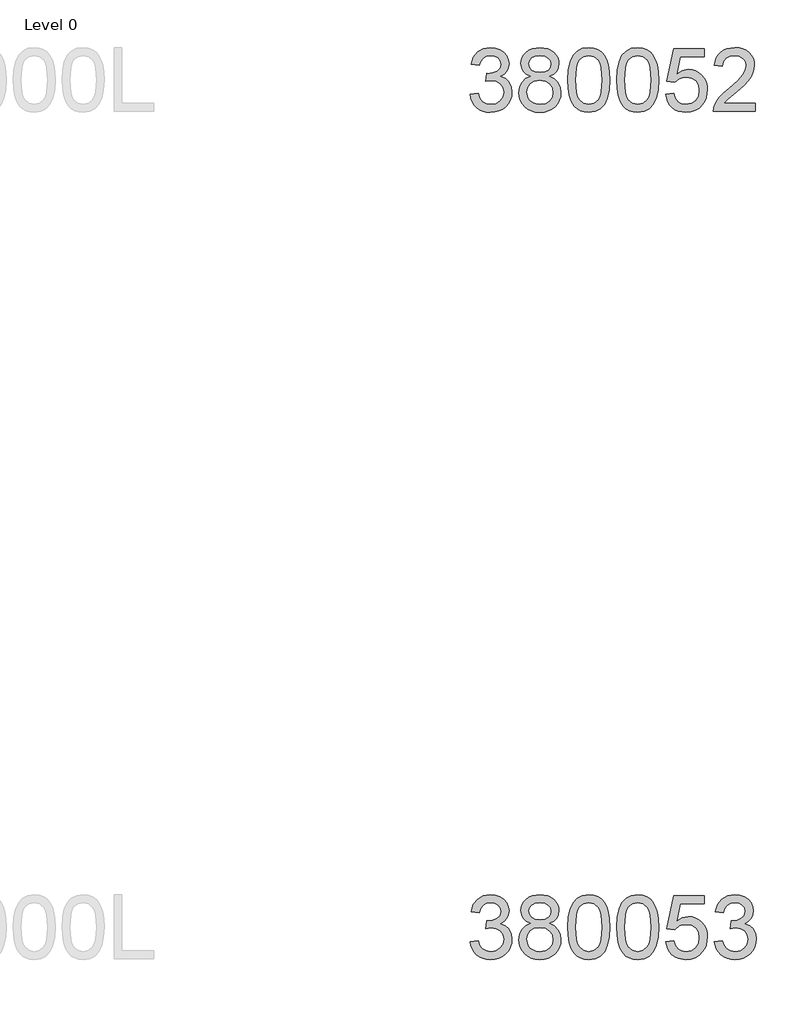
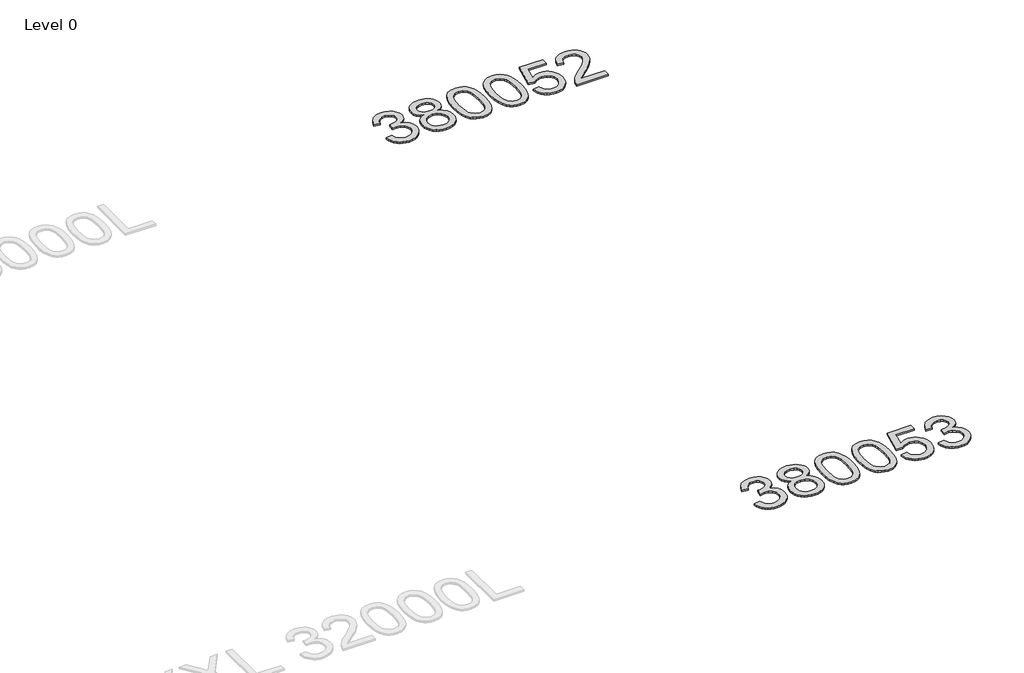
# One storey, part 14 of 37: 2 proxies.
"""IFC4 building model written with IfcOpenShell, lengths in millimetres."""

from ifc_helpers import new_model, si_unit, origin, origin_with_axes, place, context, project, spatial, polyline, outline, extrude, element, save

model = new_model("IFC4")

# Units and contexts
model_context = context("Model", 3, world=origin())
ifc_project = project(units=[si_unit("LENGTHUNIT", "METRE", prefix="MILLI")], contexts=[model_context])

# Site, building, storey
site = spatial("IfcSite", under=ifc_project)
building = spatial("IfcBuilding", under=site)
storey = spatial("IfcBuildingStorey", under=building, Name="Level 0", Elevation=0.0)

# Proxies
placement = place(None, origin())
element("IfcBuildingElementProxy", 1, Name="300mm Arial", ObjectType="300mm Arial", at=placement, inside=storey, context=model_context, shape_type="SweptSolid", body=[
    extrude(outline(polyline([(-6311.2846424, -9620.925676), (-6273.6135261, -9616.2167865), (-6265.1798313, -9639.8899929), (-6252.8281934, -9655.8744656), (-6235.9516068, -9664.979545), (-6213.9430665, -9668.0145714), (-6188.1177504, -9663.8391108), (-6168.1785463, -9651.3127288), (-6155.4314351, -9632.6243235), (-6151.1823981, -9609.9627926), (-6155.3946469, -9588.4508929), (-6168.0313935, -9571.0040893), (-6187.1612572, -9559.4433976), (-6210.8528577, -9555.5898337), (-6237.266785, -9559.710112), (-6233.0729302, -9522.0389957), (-6227.0396655, -9522.4804541), (-6204.4701051, -9519.7765215), (-6184.2917777, -9511.6647235), (-6170.0547444, -9497.942725), (-6165.3090667, -9478.4081911), (-6168.7487634, -9462.1386099), (-6179.0678533, -9448.9408433), (-6194.8132027, -9440.1944488), (-6214.5316777, -9437.278984), (-6234.2869408, -9440.22204), (-6250.4369604, -9449.0512079), (-6262.2275783, -9463.7664877), (-6268.9046365, -9484.3678794), (-6306.5757528, -9479.6589899), (-6295.4841107, -9445.8322404), (-6275.7472417, -9420.5771415), (-6248.7447032, -9404.8501862), (-6215.8560528, -9399.6078677), (-6192.1736494, -9402.1922387), (-6170.4226264, -9409.9453518), (-6152.083709, -9422.1774281), (-6138.637622, -9438.198689), (-6130.3878683, -9456.6571681), (-6127.6379504, -9476.2008991), (-6130.2499126, -9494.4110579), (-6138.0857991, -9510.9289595), (-6151.0352453, -9525.0004458), (-6168.9878867, -9535.8713587), (-6145.4066508, -9545.3995024), (-6127.932256, -9561.6230984), (-6117.1165253, -9583.6592299), (-6113.5112818, -9610.6249802), (-6115.3139036, -9629.7364498), (-6120.7217689, -9647.3396033), (-6129.7348778, -9663.4344406), (-6142.3532302, -9678.0209617), (-6157.7260991, -9690.1242793), (-6175.0027573, -9698.7695062), (-6194.1832048, -9703.9566423), (-6215.2674416, -9705.6856877), (-6234.323729, -9704.2095612), (-6251.6877592, -9699.7811817), (-6267.3595322, -9692.4005492), (-6281.339048, -9682.0676636), (-6293.0606881, -9669.3895304), (-6301.9588338, -9654.9731547), (-6308.0334853, -9638.8185366), (-6311.2846424, -9620.925676)])), origin_with_axes(), (0.0, 0.0, 1.0), 10.0),
    extrude(outline(polyline([(-6025.6610613, -9534.988442), (-6045.8301917, -9525.0556281), (-6059.9844515, -9511.5911471), (-6068.3445698, -9494.8709104), (-6071.1312759, -9475.1708295), (-6069.6137627, -9459.8071577), (-6065.061223, -9445.7218758), (-6057.4736569, -9432.9149839), (-6046.8510643, -9421.3864818), (-6033.7038815, -9411.8583382), (-6018.5425447, -9405.0525213), (-5982.1774095, -9399.6078677), (-5945.5915451, -9405.18128), (-5930.2646615, -9412.1480452), (-5916.9151436, -9421.9015166), (-5906.0994129, -9433.6553464), (-5898.373891, -9446.6231867), (-5893.7385779, -9460.8050376), (-5892.1934735, -9476.2008991), (-5894.9433914, -9495.2663835), (-5903.1931451, -9511.7015117), (-5917.0347052, -9525.0832192), (-5936.5600421, -9534.988442), (-5913.3742794, -9546.9354097), (-5896.4976928, -9564.5293662), (-5886.206194, -9586.9241826), (-5882.7756944, -9613.2737305), (-5884.4771486, -9632.0633034), (-5889.5815113, -9649.2893779), (-5898.0887825, -9664.9519538), (-5909.998962, -9679.0510313), (-5924.6866507, -9690.7036935), (-5941.526449, -9699.0270236), (-5960.518357, -9704.0210217), (-5981.6623747, -9705.6856877), (-6002.8063924, -9704.0141239), (-6021.7983004, -9698.9994325), (-6038.6380987, -9690.6416134), (-6053.3257874, -9678.9406667), (-6065.235967, -9664.7427209), (-6073.7432381, -9648.8939047), (-6078.8476008, -9631.3942181), (-6080.549055, -9612.2436609), (-6076.9805997, -9584.8732405), (-6066.2752336, -9562.3588624), (-6048.9847798, -9545.4730788), (-6025.6610613, -9534.988442)]), holes=[polyline([(-6033.4601596, -9476.2744755), (-6030.1216305, -9492.7188007), (-6020.1060432, -9505.8521879), (-6003.7077033, -9514.4606266), (-5981.2209163, -9517.3301062), (-5959.2583612, -9514.4790207), (-5943.1083416, -9505.9257643), (-5933.1755277, -9493.2338355), (-5929.8645898, -9477.9667327), (-5933.2858923, -9462.1202158), (-5943.5498, -9449.0144197), (-5959.9205488, -9440.2128429), (-5981.6623747, -9437.278984), (-6003.5421564, -9440.1484636), (-6019.885314, -9448.7569023), (-6030.0664482, -9461.3752547), (-6033.4601596, -9476.2744755)]), polyline([(-6042.8779387, -9610.9192858), (-6036.5871566, -9639.2829876), (-6027.8775504, -9651.4506846), (-6014.3302959, -9660.5097787), (-5998.1066999, -9666.1383732), (-5981.3680691, -9668.0145714), (-5955.726694, -9664.069037), (-5936.4864657, -9652.2324338), (-5924.4567245, -9634.3073836), (-5920.4468107, -9612.0965081), (-5924.5854832, -9589.5085536), (-5937.0015005, -9571.1880303), (-5956.6831872, -9559.0479244), (-5982.6188679, -9555.0012225), (-6007.901558, -9558.9927421), (-6026.9486483, -9570.9673011), (-6038.8956161, -9588.9383365), (-6042.8779387, -9610.9192858)])]), origin_with_axes(), (0.0, 0.0, 1.0), 10.0),
    extrude(outline(polyline([(-5849.8134676, -9552.7203541), (-5847.0451556, -9504.4818275), (-5838.7402196, -9466.0105679), (-5824.981433, -9436.717964), (-5805.8515692, -9416.0154047), (-5781.2126726, -9403.709752), (-5750.9267873, -9399.6078677), (-5727.7134334, -9402.0358889), (-5706.9281007, -9409.3199524), (-5689.5456764, -9421.1749497), (-5676.5410479, -9437.3157722), (-5666.7185986, -9457.6044643), (-5658.8827121, -9481.9030701), (-5653.7507583, -9512.7591724), (-5652.040107, -9552.7203541), (-5654.7808279, -9600.6829692), (-5663.0029905, -9639.0622584), (-5676.6790037, -9668.3824534), (-5695.7812763, -9689.1677861), (-5720.4753552, -9701.5562123), (-5750.9267873, -9705.6856877), (-5771.6753319, -9703.892263), (-5790.0694316, -9698.5119888), (-5806.1090866, -9689.5448652), (-5819.7942968, -9676.9908921), (-5832.9276841, -9654.2971715), (-5842.3086749, -9626.0208417), (-5847.9372695, -9592.1619025), (-5849.8134676, -9552.7203541)]), holes=[polyline([(-5812.1423513, -9552.6467777), (-5807.7277674, -9611.9033701), (-5802.2095375, -9632.1713688), (-5794.4840156, -9646.1991691), (-5774.7655406, -9662.5607208), (-5750.9267873, -9668.0145714), (-5727.088034, -9662.5423267), (-5707.3695591, -9646.1255927), (-5699.6440372, -9632.0747997), (-5694.1258073, -9611.8113996), (-5689.7112233, -9552.6467777), (-5693.9786545, -9494.7237576), (-5699.3129434, -9474.5224375), (-5706.7809479, -9460.1612441), (-5726.4626347, -9442.9995491), (-5751.3682457, -9437.278984), (-5774.9494816, -9442.3189674), (-5793.8954044, -9457.4389174), (-5801.8784437, -9473.0739022), (-5807.5806146, -9494.1535405), (-5812.1423513, -9552.6467777)])]), origin_with_axes(), (0.0, 0.0, 1.0), 10.0),
    extrude(outline(polyline([(-5619.0778803, -9552.7203541), (-5616.3095682, -9504.4818275), (-5608.0046322, -9466.0105679), (-5594.2458456, -9436.717964), (-5575.1159818, -9416.0154047), (-5550.4770852, -9403.709752), (-5520.1912, -9399.6078677), (-5496.9778461, -9402.0358889), (-5476.1925133, -9409.3199524), (-5458.8100891, -9421.1749497), (-5445.8054605, -9437.3157722), (-5435.9830113, -9457.6044643), (-5428.1471248, -9481.9030701), (-5423.0151709, -9512.7591724), (-5421.3045197, -9552.7203541), (-5424.0452405, -9600.6829692), (-5432.2674031, -9639.0622584), (-5445.9434163, -9668.3824534), (-5465.0456889, -9689.1677861), (-5489.7397678, -9701.5562123), (-5520.1912, -9705.6856877), (-5540.9397445, -9703.892263), (-5559.3338442, -9698.5119888), (-5575.3734992, -9689.5448652), (-5589.0587095, -9676.9908921), (-5602.1920967, -9654.2971715), (-5611.5730876, -9626.0208417), (-5617.2016821, -9592.1619025), (-5619.0778803, -9552.7203541)]), holes=[polyline([(-5581.406764, -9552.6467777), (-5576.99218, -9611.9033701), (-5571.4739501, -9632.1713688), (-5563.7484282, -9646.1991691), (-5544.0299532, -9662.5607208), (-5520.1912, -9668.0145714), (-5496.3524467, -9662.5423267), (-5476.6339717, -9646.1255927), (-5468.9084498, -9632.0747997), (-5463.3902199, -9611.8113996), (-5458.975636, -9552.6467777), (-5463.2430671, -9494.7237576), (-5468.577356, -9474.5224375), (-5476.0453605, -9460.1612441), (-5495.7270473, -9442.9995491), (-5520.6326584, -9437.278984), (-5544.2138942, -9442.3189674), (-5563.159817, -9457.4389174), (-5571.1428563, -9473.0739022), (-5576.8450272, -9494.1535405), (-5581.406764, -9552.6467777)])]), origin_with_axes(), (0.0, 0.0, 1.0), 10.0),
    extrude(outline(polyline([(-5388.3422929, -9620.925676), (-5350.6711766, -9616.2167865), (-5343.7549951, -9638.8323321), (-5331.6884656, -9655.028337), (-5314.5267706, -9664.7680128), (-5292.3250921, -9668.0145714), (-5265.3225537, -9663.4988199), (-5245.089044, -9649.9515654), (-5232.4522974, -9628.9363065), (-5228.2400486, -9602.0165415), (-5232.185583, -9576.669472), (-5244.0221862, -9557.2820909), (-5263.8418287, -9544.9764381), (-5291.736481, -9540.8745539), (-5310.0110191, -9542.5116288), (-5324.8090723, -9547.4228534), (-5345.962287, -9564.4190016), (-5383.6334033, -9559.710112), (-5350.6711766, -9404.3167573), (-5204.6956009, -9404.3167573), (-5204.6956009, -9441.9878736), (-5320.2105474, -9441.9878736), (-5336.3237788, -9524.9820517), (-5309.4132108, -9508.6480911), (-5281.2150559, -9503.2034376), (-5262.8692406, -9504.8910962), (-5246.017946, -9509.9540722), (-5230.661172, -9518.3923654), (-5216.7989185, -9530.205976), (-5205.3232995, -9544.6729355), (-5197.1264288, -9561.0712754), (-5192.2083064, -9579.4009958), (-5190.5689323, -9599.6620967), (-5196.4734383, -9637.333213), (-5203.8540708, -9654.1270261), (-5214.1869564, -9669.5596758), (-5229.8403353, -9685.364806), (-5248.1056763, -9696.6541847), (-5268.9829796, -9703.427812), (-5292.4722449, -9705.6856877), (-5329.4719766, -9699.8823492), (-5345.1506474, -9692.6281762), (-5358.9485215, -9682.4723338), (-5370.428739, -9669.92066), (-5379.1544401, -9655.4789924), (-5388.3422929, -9620.925676)])), origin_with_axes(), (0.0, 0.0, 1.0), 10.0),
    extrude(outline(polyline([(-4964.5422344, -9663.3056819), (-4964.5422344, -9700.9767982), (-5162.3155951, -9700.9767982), (-5158.2688931, -9675.0043293), (-5148.9798727, -9654.7064402), (-5135.386633, -9635.0155564), (-5115.7233404, -9614.4049677), (-5088.2241612, -9591.3479636), (-5047.5732008, -9555.2403458), (-5023.1826245, -9528.5872952), (-5010.9873363, -9506.9558339), (-5006.9222403, -9485.9129838), (-5010.7574101, -9467.0498345), (-5022.2629195, -9451.3688645), (-5039.9488464, -9440.8014541), (-5062.3252688, -9437.278984), (-5085.8237312, -9440.7186807), (-5104.0798752, -9451.0377707), (-5115.8612961, -9467.4269135), (-5119.9355892, -9489.076769), (-5157.6067055, -9484.3678794), (-5148.474035, -9447.9291678), (-5139.9276764, -9433.3932305), (-5128.7279689, -9421.3129054), (-5115.1324299, -9411.8169514), (-5099.3985768, -9405.0341272), (-5061.5159284, -9399.6078677), (-5041.3261046, -9401.1161839), (-5023.3573684, -9405.6411325), (-5007.6097198, -9413.1827134), (-4994.0831587, -9423.7409266), (-4983.2191435, -9436.534023), (-4975.4591326, -9450.7802533), (-4970.8031261, -9466.4796174), (-4969.251124, -9483.6321154), (-4970.9249871, -9501.6491361), (-4975.9465763, -9519.3534572), (-4984.8585176, -9537.3612808), (-4998.203437, -9556.2888095), (-5019.4762134, -9578.885961), (-5052.1717257, -9607.9026534), (-5095.5082247, -9644.1390299), (-5112.5043729, -9663.3056819), (-4964.5422344, -9663.3056819)])), origin_with_axes(), (0.0, 0.0, 1.0), 10.0),
])
element("IfcBuildingElementProxy", 2, Name="300mm Arial", ObjectType="300mm Arial", at=placement, inside=storey, context=model_context, shape_type="SweptSolid", body=[
    extrude(outline(polyline([(-6311.2846424, -13620.925676), (-6273.6135261, -13616.2167865), (-6265.1798313, -13639.8899929), (-6252.8281934, -13655.8744656), (-6235.9516068, -13664.979545), (-6213.9430665, -13668.0145714), (-6188.1177504, -13663.8391108), (-6168.1785463, -13651.3127288), (-6155.4314351, -13632.6243235), (-6151.1823981, -13609.9627926), (-6155.3946469, -13588.4508929), (-6168.0313935, -13571.0040893), (-6187.1612572, -13559.4433976), (-6210.8528577, -13555.5898337), (-6237.266785, -13559.710112), (-6233.0729302, -13522.0389957), (-6227.0396655, -13522.4804541), (-6204.4701051, -13519.7765215), (-6184.2917777, -13511.6647235), (-6170.0547444, -13497.942725), (-6165.3090667, -13478.4081911), (-6168.7487634, -13462.1386099), (-6179.0678533, -13448.9408433), (-6194.8132027, -13440.1944488), (-6214.5316777, -13437.278984), (-6234.2869408, -13440.22204), (-6250.4369604, -13449.0512079), (-6262.2275783, -13463.7664877), (-6268.9046365, -13484.3678794), (-6306.5757528, -13479.6589899), (-6295.4841107, -13445.8322404), (-6275.7472417, -13420.5771415), (-6248.7447032, -13404.8501862), (-6215.8560528, -13399.6078677), (-6192.1736494, -13402.1922387), (-6170.4226264, -13409.9453518), (-6152.083709, -13422.1774281), (-6138.637622, -13438.198689), (-6130.3878683, -13456.6571681), (-6127.6379504, -13476.2008991), (-6130.2499126, -13494.4110579), (-6138.0857991, -13510.9289595), (-6151.0352453, -13525.0004458), (-6168.9878867, -13535.8713587), (-6145.4066508, -13545.3995024), (-6127.932256, -13561.6230984), (-6117.1165253, -13583.6592299), (-6113.5112818, -13610.6249802), (-6115.3139036, -13629.7364498), (-6120.7217689, -13647.3396033), (-6129.7348778, -13663.4344406), (-6142.3532302, -13678.0209617), (-6157.7260991, -13690.1242793), (-6175.0027573, -13698.7695062), (-6194.1832048, -13703.9566423), (-6215.2674416, -13705.6856877), (-6234.323729, -13704.2095612), (-6251.6877592, -13699.7811817), (-6267.3595322, -13692.4005492), (-6281.339048, -13682.0676636), (-6293.0606881, -13669.3895304), (-6301.9588338, -13654.9731547), (-6308.0334853, -13638.8185366), (-6311.2846424, -13620.925676)])), origin_with_axes(), (0.0, 0.0, 1.0), 10.0),
    extrude(outline(polyline([(-6025.6610613, -13534.988442), (-6045.8301917, -13525.0556281), (-6059.9844515, -13511.5911471), (-6068.3445698, -13494.8709104), (-6071.1312759, -13475.1708295), (-6069.6137627, -13459.8071577), (-6065.061223, -13445.7218758), (-6057.4736569, -13432.9149839), (-6046.8510643, -13421.3864818), (-6033.7038815, -13411.8583382), (-6018.5425447, -13405.0525213), (-5982.1774095, -13399.6078677), (-5945.5915451, -13405.18128), (-5930.2646615, -13412.1480452), (-5916.9151436, -13421.9015166), (-5906.0994129, -13433.6553464), (-5898.373891, -13446.6231867), (-5893.7385779, -13460.8050376), (-5892.1934735, -13476.2008991), (-5894.9433914, -13495.2663835), (-5903.1931451, -13511.7015117), (-5917.0347052, -13525.0832192), (-5936.5600421, -13534.988442), (-5913.3742794, -13546.9354097), (-5896.4976928, -13564.5293662), (-5886.206194, -13586.9241826), (-5882.7756944, -13613.2737305), (-5884.4771486, -13632.0633034), (-5889.5815113, -13649.2893779), (-5898.0887825, -13664.9519538), (-5909.998962, -13679.0510313), (-5924.6866507, -13690.7036935), (-5941.526449, -13699.0270236), (-5960.518357, -13704.0210217), (-5981.6623747, -13705.6856877), (-6002.8063924, -13704.0141239), (-6021.7983004, -13698.9994325), (-6038.6380987, -13690.6416134), (-6053.3257874, -13678.9406667), (-6065.235967, -13664.7427209), (-6073.7432381, -13648.8939047), (-6078.8476008, -13631.3942181), (-6080.549055, -13612.2436609), (-6076.9805997, -13584.8732405), (-6066.2752336, -13562.3588624), (-6048.9847798, -13545.4730788), (-6025.6610613, -13534.988442)]), holes=[polyline([(-6033.4601596, -13476.2744755), (-6030.1216305, -13492.7188007), (-6020.1060432, -13505.8521879), (-6003.7077033, -13514.4606266), (-5981.2209163, -13517.3301062), (-5959.2583612, -13514.4790207), (-5943.1083416, -13505.9257643), (-5933.1755277, -13493.2338355), (-5929.8645898, -13477.9667327), (-5933.2858923, -13462.1202158), (-5943.5498, -13449.0144197), (-5959.9205488, -13440.2128429), (-5981.6623747, -13437.278984), (-6003.5421564, -13440.1484636), (-6019.885314, -13448.7569023), (-6030.0664482, -13461.3752547), (-6033.4601596, -13476.2744755)]), polyline([(-6042.8779387, -13610.9192858), (-6036.5871566, -13639.2829876), (-6027.8775504, -13651.4506846), (-6014.3302959, -13660.5097787), (-5998.1066999, -13666.1383732), (-5981.3680691, -13668.0145714), (-5955.726694, -13664.069037), (-5936.4864657, -13652.2324338), (-5924.4567245, -13634.3073836), (-5920.4468107, -13612.0965081), (-5924.5854832, -13589.5085536), (-5937.0015005, -13571.1880303), (-5956.6831872, -13559.0479244), (-5982.6188679, -13555.0012225), (-6007.901558, -13558.9927421), (-6026.9486483, -13570.9673011), (-6038.8956161, -13588.9383365), (-6042.8779387, -13610.9192858)])]), origin_with_axes(), (0.0, 0.0, 1.0), 10.0),
    extrude(outline(polyline([(-5849.8134676, -13552.7203541), (-5847.0451556, -13504.4818275), (-5838.7402196, -13466.0105679), (-5824.981433, -13436.717964), (-5805.8515692, -13416.0154047), (-5781.2126726, -13403.709752), (-5750.9267873, -13399.6078677), (-5727.7134334, -13402.0358889), (-5706.9281007, -13409.3199524), (-5689.5456764, -13421.1749497), (-5676.5410479, -13437.3157722), (-5666.7185986, -13457.6044643), (-5658.8827121, -13481.9030701), (-5653.7507583, -13512.7591724), (-5652.040107, -13552.7203541), (-5654.7808279, -13600.6829692), (-5663.0029905, -13639.0622584), (-5676.6790037, -13668.3824534), (-5695.7812763, -13689.1677861), (-5720.4753552, -13701.5562123), (-5750.9267873, -13705.6856877), (-5771.6753319, -13703.892263), (-5790.0694316, -13698.5119888), (-5806.1090866, -13689.5448652), (-5819.7942968, -13676.9908921), (-5832.9276841, -13654.2971715), (-5842.3086749, -13626.0208417), (-5847.9372695, -13592.1619025), (-5849.8134676, -13552.7203541)]), holes=[polyline([(-5812.1423513, -13552.6467777), (-5807.7277674, -13611.9033701), (-5802.2095375, -13632.1713688), (-5794.4840156, -13646.1991691), (-5774.7655406, -13662.5607208), (-5750.9267873, -13668.0145714), (-5727.088034, -13662.5423267), (-5707.3695591, -13646.1255927), (-5699.6440372, -13632.0747997), (-5694.1258073, -13611.8113996), (-5689.7112233, -13552.6467777), (-5693.9786545, -13494.7237576), (-5699.3129434, -13474.5224375), (-5706.7809479, -13460.1612441), (-5726.4626347, -13442.9995491), (-5751.3682457, -13437.278984), (-5774.9494816, -13442.3189674), (-5793.8954044, -13457.4389174), (-5801.8784437, -13473.0739022), (-5807.5806146, -13494.1535405), (-5812.1423513, -13552.6467777)])]), origin_with_axes(), (0.0, 0.0, 1.0), 10.0),
    extrude(outline(polyline([(-5619.0778803, -13552.7203541), (-5616.3095682, -13504.4818275), (-5608.0046322, -13466.0105679), (-5594.2458456, -13436.717964), (-5575.1159818, -13416.0154047), (-5550.4770852, -13403.709752), (-5520.1912, -13399.6078677), (-5496.9778461, -13402.0358889), (-5476.1925133, -13409.3199524), (-5458.8100891, -13421.1749497), (-5445.8054605, -13437.3157722), (-5435.9830113, -13457.6044643), (-5428.1471248, -13481.9030701), (-5423.0151709, -13512.7591724), (-5421.3045197, -13552.7203541), (-5424.0452405, -13600.6829692), (-5432.2674031, -13639.0622584), (-5445.9434163, -13668.3824534), (-5465.0456889, -13689.1677861), (-5489.7397678, -13701.5562123), (-5520.1912, -13705.6856877), (-5540.9397445, -13703.892263), (-5559.3338442, -13698.5119888), (-5575.3734992, -13689.5448652), (-5589.0587095, -13676.9908921), (-5602.1920967, -13654.2971715), (-5611.5730876, -13626.0208417), (-5617.2016821, -13592.1619025), (-5619.0778803, -13552.7203541)]), holes=[polyline([(-5581.406764, -13552.6467777), (-5576.99218, -13611.9033701), (-5571.4739501, -13632.1713688), (-5563.7484282, -13646.1991691), (-5544.0299532, -13662.5607208), (-5520.1912, -13668.0145714), (-5496.3524467, -13662.5423267), (-5476.6339717, -13646.1255927), (-5468.9084498, -13632.0747997), (-5463.3902199, -13611.8113996), (-5458.975636, -13552.6467777), (-5463.2430671, -13494.7237576), (-5468.577356, -13474.5224375), (-5476.0453605, -13460.1612441), (-5495.7270473, -13442.9995491), (-5520.6326584, -13437.278984), (-5544.2138942, -13442.3189674), (-5563.159817, -13457.4389174), (-5571.1428563, -13473.0739022), (-5576.8450272, -13494.1535405), (-5581.406764, -13552.6467777)])]), origin_with_axes(), (0.0, 0.0, 1.0), 10.0),
    extrude(outline(polyline([(-5388.3422929, -13620.925676), (-5350.6711766, -13616.2167865), (-5343.7549951, -13638.8323321), (-5331.6884656, -13655.028337), (-5314.5267706, -13664.7680128), (-5292.3250921, -13668.0145714), (-5265.3225537, -13663.4988199), (-5245.089044, -13649.9515654), (-5232.4522974, -13628.9363065), (-5228.2400486, -13602.0165415), (-5232.185583, -13576.669472), (-5244.0221862, -13557.2820909), (-5263.8418287, -13544.9764381), (-5291.736481, -13540.8745539), (-5310.0110191, -13542.5116288), (-5324.8090723, -13547.4228534), (-5345.962287, -13564.4190016), (-5383.6334033, -13559.710112), (-5350.6711766, -13404.3167573), (-5204.6956009, -13404.3167573), (-5204.6956009, -13441.9878736), (-5320.2105474, -13441.9878736), (-5336.3237788, -13524.9820517), (-5309.4132108, -13508.6480911), (-5281.2150559, -13503.2034376), (-5262.8692406, -13504.8910962), (-5246.017946, -13509.9540722), (-5230.661172, -13518.3923654), (-5216.7989185, -13530.205976), (-5205.3232995, -13544.6729355), (-5197.1264288, -13561.0712754), (-5192.2083064, -13579.4009958), (-5190.5689323, -13599.6620967), (-5196.4734383, -13637.333213), (-5203.8540708, -13654.1270261), (-5214.1869564, -13669.5596758), (-5229.8403353, -13685.364806), (-5248.1056763, -13696.6541847), (-5268.9829796, -13703.427812), (-5292.4722449, -13705.6856877), (-5329.4719766, -13699.8823492), (-5345.1506474, -13692.6281762), (-5358.9485215, -13682.4723338), (-5370.428739, -13669.92066), (-5379.1544401, -13655.4789924), (-5388.3422929, -13620.925676)])), origin_with_axes(), (0.0, 0.0, 1.0), 10.0),
    extrude(outline(polyline([(-5157.6067055, -13620.925676), (-5119.9355892, -13616.2167865), (-5111.5018945, -13639.8899929), (-5099.1502565, -13655.8744656), (-5082.2736699, -13664.979545), (-5060.2651296, -13668.0145714), (-5034.4398135, -13663.8391108), (-5014.5006094, -13651.3127288), (-5001.7534983, -13632.6243235), (-4997.5044612, -13609.9627926), (-5001.7167101, -13588.4508929), (-5014.3534566, -13571.0040893), (-5033.4833203, -13559.4433976), (-5057.1749208, -13555.5898337), (-5083.5888481, -13559.710112), (-5079.3949933, -13522.0389957), (-5073.3617286, -13522.4804541), (-5050.7921682, -13519.7765215), (-5030.6138408, -13511.6647235), (-5016.3768076, -13497.942725), (-5011.6311298, -13478.4081911), (-5015.0708265, -13462.1386099), (-5025.3899164, -13448.9408433), (-5041.1352658, -13440.1944488), (-5060.8537408, -13437.278984), (-5080.6090039, -13440.22204), (-5096.7590235, -13449.0512079), (-5108.5496415, -13463.7664877), (-5115.2266997, -13484.3678794), (-5152.897816, -13479.6589899), (-5141.8061738, -13445.8322404), (-5122.0693048, -13420.5771415), (-5095.0667663, -13404.8501862), (-5062.178116, -13399.6078677), (-5038.4957125, -13402.1922387), (-5016.7446896, -13409.9453518), (-4998.4057721, -13422.1774281), (-4984.9596852, -13438.198689), (-4976.7099314, -13456.6571681), (-4973.9600135, -13476.2008991), (-4976.5719757, -13494.4110579), (-4984.4078622, -13510.9289595), (-4997.3573084, -13525.0004458), (-5015.3099498, -13535.8713587), (-4991.7287139, -13545.3995024), (-4974.2543191, -13561.6230984), (-4963.4385885, -13583.6592299), (-4959.8333449, -13610.6249802), (-4961.6359667, -13629.7364498), (-4967.043832, -13647.3396033), (-4976.0569409, -13663.4344406), (-4988.6752933, -13678.0209617), (-5004.0481622, -13690.1242793), (-5021.3248204, -13698.7695062), (-5040.5052679, -13703.9566423), (-5061.5895048, -13705.6856877), (-5080.6457921, -13704.2095612), (-5098.0098223, -13699.7811817), (-5113.6815953, -13692.4005492), (-5127.6611111, -13682.0676636), (-5139.3827512, -13669.3895304), (-5148.2808969, -13654.9731547), (-5154.3555484, -13638.8185366), (-5157.6067055, -13620.925676)])), origin_with_axes(), (0.0, 0.0, 1.0), 10.0),
])

save(model, "model.ifc")
